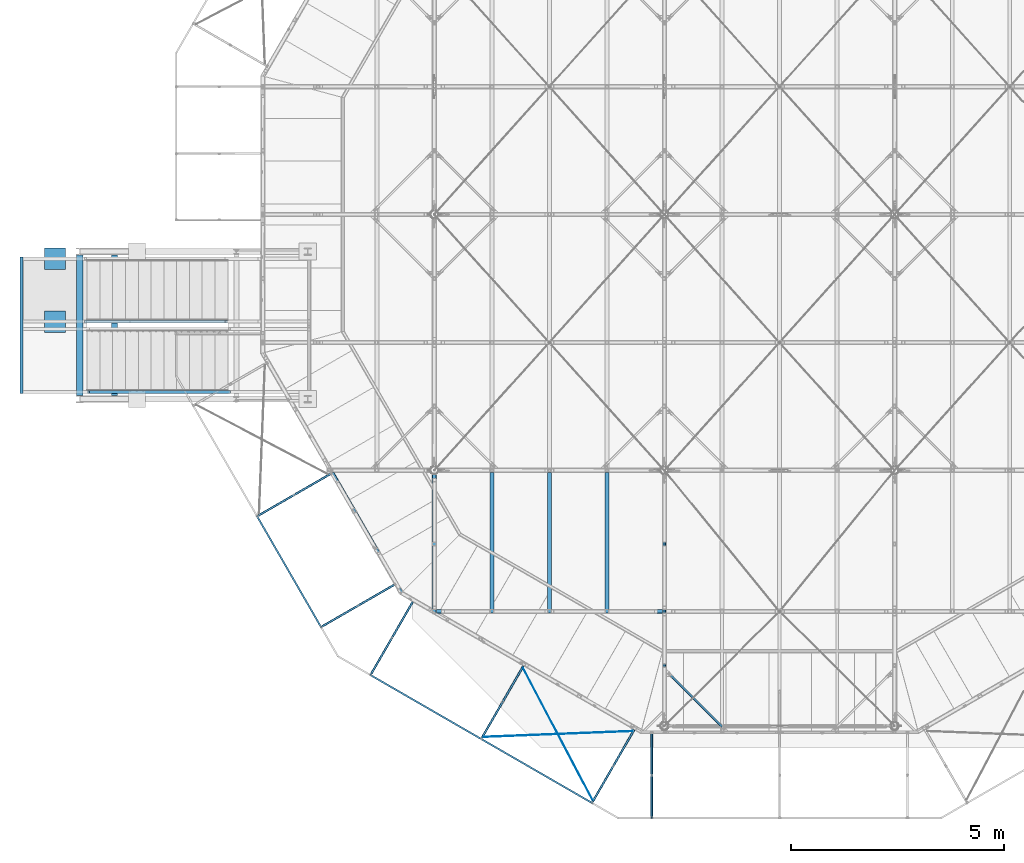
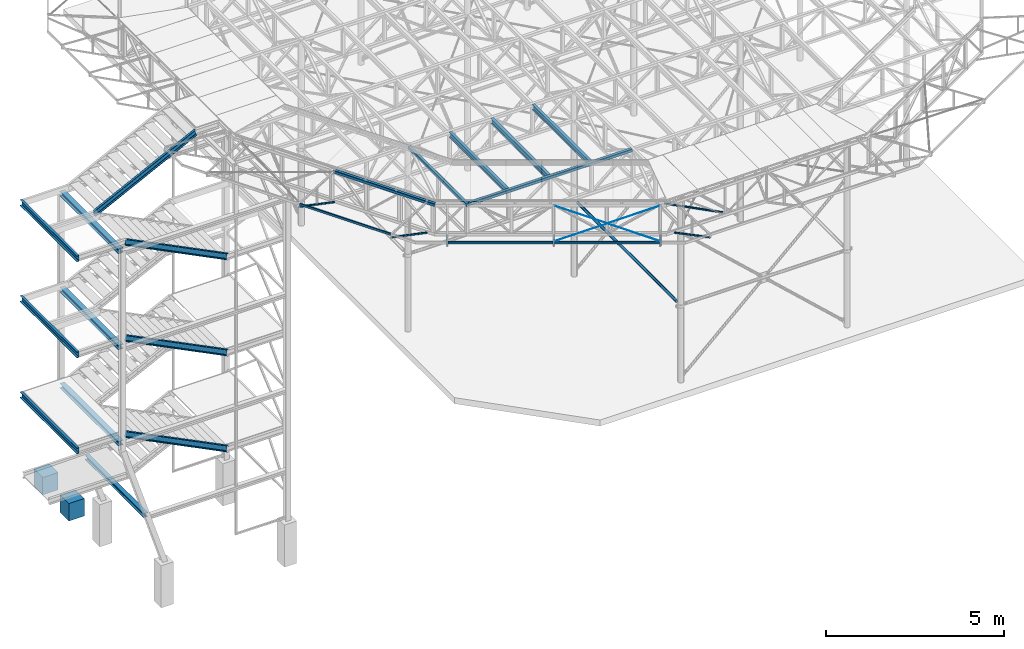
# One storey, part 4 of 132: 20 beams, 10 members, 2 columns, 32 elements without a shape of their own.
"""IFC2X3 building model written with IfcOpenShell, lengths in millimetres."""

import ifcopenshell
import ifcopenshell.guid

model = None  # the IFC model being written
_history = None  # IfcOwnerHistory: only IFC2X3 demands one
_inside = {}  # id of a spatial element -> (the spatial element, [elements in it])
_under = {}  # id of a project, library or spatial element -> (it, [spatial elements below it])
_declared = {}  # id of a project -> (the project, [libraries it declares])
_typed = {}  # id of a type object -> (the type object, [elements of that type])
_made_of = {}  # id of a material, layer set ... -> (it, [elements and type objects made of it])


def new_model(schema):
    """Start an empty IFC model of exactly this schema.

    Asked for "IFC4X3", IfcOpenShell would pick the latest addendum, in which some entities
    have other attributes; the version numbers below select the first issue.
    IFC2X3 requires an IfcOwnerHistory on every rooted entity: one is made here for all.
    """
    global model, _history
    if schema == "IFC4X3":
        model = ifcopenshell.file(schema_version=(4, 3, 0, 0))
    else:
        model = ifcopenshell.file(schema=schema)
    _inside.clear()
    _under.clear()
    _declared.clear()
    _typed.clear()
    _made_of.clear()
    _history = None
    if model.schema == "IFC2X3":
        org = make("IfcOrganization", Name="unknown")
        user = make(
            "IfcPersonAndOrganization",
            ThePerson=make("IfcPerson", FamilyName="unknown"),
            TheOrganization=org,
        )
        app = make(
            "IfcApplication",
            ApplicationDeveloper=org,
            Version="unknown",
            ApplicationFullName="unknown",
            ApplicationIdentifier="unknown",
        )
        _history = make(
            "IfcOwnerHistory",
            OwningUser=user,
            OwningApplication=app,
            ChangeAction="ADDED",
            CreationDate=0,
        )
    return model


def make(cls, **values):
    """One entity of the class cls with the attributes given. An attribute that is None is left unset."""
    return model.create_entity(
        cls, **{name: value for name, value in values.items() if value is not None}
    )


def rooted(cls, **values):
    """An entity with a GlobalId (a new one), such as an element, a storey or a relation."""
    return make(cls, GlobalId=ifcopenshell.guid.new(), OwnerHistory=_history, **values)


def si_unit(unit_type, name, prefix=None):
    """IfcSIUnit, for example si_unit("LENGTHUNIT", "METRE", prefix="MILLI")."""
    return make("IfcSIUnit", UnitType=unit_type, Prefix=prefix, Name=name)


def assignment(units):
    """IfcUnitAssignment: the units of a project."""
    return None if units is None else make("IfcUnitAssignment", Units=units)


def point(xyz):
    """IfcCartesianPoint."""
    return None if xyz is None else make("IfcCartesianPoint", Coordinates=xyz)


def direction(xyz):
    """IfcDirection."""
    return None if xyz is None else make("IfcDirection", DirectionRatios=xyz)


def frame(location, z_axis=None, x_axis=None):
    """IfcAxis2Placement3D, a coordinate frame: its origin and axes. An axis left out is left unset."""
    return make(
        "IfcAxis2Placement3D",
        Location=point(location),
        Axis=direction(z_axis),
        RefDirection=direction(x_axis),
    )


def frame_2d(location, x_axis=None):
    """IfcAxis2Placement2D, a coordinate frame in the plane: its origin and x axis."""
    return make(
        "IfcAxis2Placement2D", Location=point(location), RefDirection=direction(x_axis)
    )


def origin_with_axes():
    """The frame at (0, 0, 0) with the z axis (0, 0, 1) and the x axis (1, 0, 0) written out."""
    return frame((0.0, 0.0, 0.0), z_axis=(0.0, 0.0, 1.0), x_axis=(1.0, 0.0, 0.0))


def origin_2d_with_axis():
    """The frame at (0, 0) in the plane with the x axis (1, 0) written out."""
    return frame_2d((0.0, 0.0), x_axis=(1.0, 0.0))


def place(relative_to, where):
    """IfcLocalPlacement: puts the frame where relative to a parent placement (None: the world)."""
    return make(
        "IfcLocalPlacement", PlacementRelTo=relative_to, RelativePlacement=where
    )


def context(
    kind, dimensions, precision=None, world=None, true_north=None, identifier=None
):
    """IfcGeometricRepresentationContext, for example the 3D "Model" context."""
    return make(
        "IfcGeometricRepresentationContext",
        ContextIdentifier=identifier,
        ContextType=kind,
        CoordinateSpaceDimension=dimensions,
        Precision=precision,
        WorldCoordinateSystem=world,
        TrueNorth=true_north,
    )


def subcontext(parent, identifier, kind, view, scale=None):
    """IfcGeometricRepresentationSubContext, for example "Body" below "Model"."""
    return make(
        "IfcGeometricRepresentationSubContext",
        ContextIdentifier=identifier,
        ContextType=kind,
        ParentContext=parent,
        TargetScale=scale,
        TargetView=view,
    )


def project(units=None, contexts=None):
    """IfcProject with its units and contexts."""
    return rooted(
        "IfcProject",
        Name="project",
        RepresentationContexts=contexts,
        UnitsInContext=assignment(units),
    )


def spatial(cls, under=None, at=None, **own):
    """A site, building, storey or space (cls), placed at a placement, below another one or the project."""
    s = rooted(cls, ObjectPlacement=at, **own)
    if under is not None:
        _under.setdefault(under.id(), (under, []))[1].append(s)
    return s


def profile(cls, at=None, kind="AREA", **sizes):
    """A parametric profile (cls). Its sizes go by their IFC names, for example OverallWidth=200.0."""
    return make(cls, ProfileType=kind, Position=at, **sizes)


def rectangle(**sizes):
    """IfcRectangleProfileDef."""
    return profile("IfcRectangleProfileDef", **sizes)


def hollow_rectangle(**sizes):
    """IfcRectangleHollowProfileDef."""
    return profile("IfcRectangleHollowProfileDef", **sizes)


def circle(**sizes):
    """IfcCircleProfileDef."""
    return profile("IfcCircleProfileDef", **sizes)


def hollow_circle(**sizes):
    """IfcCircleHollowProfileDef."""
    return profile("IfcCircleHollowProfileDef", **sizes)


def i_section(**sizes):
    """IfcIShapeProfileDef."""
    return profile("IfcIShapeProfileDef", **sizes)


def u_section(**sizes):
    """IfcUShapeProfileDef."""
    return profile("IfcUShapeProfileDef", **sizes)


def extrude(swept, where, along, depth):
    """IfcExtrudedAreaSolid: the profile swept, set in the frame where, extruded along a direction by depth."""
    return make(
        "IfcExtrudedAreaSolid",
        SweptArea=swept,
        Position=where,
        ExtrudedDirection=direction(along),
        Depth=depth,
    )


def boolean(op, a, b):
    """IfcBooleanResult of two solids."""
    return make("IfcBooleanResult", Operator=op, FirstOperand=a, SecondOperand=b)


def clip(a, b, op="DIFFERENCE"):
    """IfcBooleanClippingResult: the solid a cut by the half space b."""
    return make(
        "IfcBooleanClippingResult", Operator=op, FirstOperand=a, SecondOperand=b
    )


def halfspace(plane, agree):
    """IfcHalfSpaceSolid: all space on one side of the plane z = 0 of the frame plane."""
    return make(
        "IfcHalfSpaceSolid",
        BaseSurface=make("IfcPlane", Position=plane),
        AgreementFlag=agree,
    )


def shape(context_of_items, identifier, shape_type, items):
    """IfcShapeRepresentation: the items that make up one representation, for example the "Body"."""
    return make(
        "IfcShapeRepresentation",
        ContextOfItems=context_of_items,
        RepresentationIdentifier=identifier,
        RepresentationType=shape_type,
        Items=items,
    )


def material(Name=None, Category=None):
    """IfcMaterial."""
    return make("IfcMaterial", Name=Name, Category=Category)


def made_of(thing, what):
    """Note that an element or type object is made of a material, layer set ...; save() writes the relation."""
    if what is not None:
        _made_of.setdefault(what.id(), (what, []))[1].append(thing)
    return thing


def type_object(cls, material=None, **own):
    """A type object (cls), such as IfcWallType, which elements share."""
    return made_of(rooted(cls, **own), material)


def element(
    cls,
    number,
    at=None,
    inside=None,
    cuts=None,
    type_object=None,
    material=None,
    context=None,
    identifier="Body",
    shape_type=None,
    held_by="IfcProductDefinitionShape",
    body=None,
    shapes=None,
    **own,
):
    """One element of the class cls, such as IfcWall. Its Tag is "e" and its number.

    at: its placement. inside: the storey or other place that contains it. cuts: it is an
    opening in that element (IfcRelVoidsElement). A single representation is given by context,
    identifier, shape_type and body (its items); several are given by shapes. held_by: the class
    of the entity that holds the representations. save() writes the other relations.
    """
    e = rooted(cls, Tag="e%d" % number, ObjectPlacement=at, **own)
    if body is not None:
        shapes = [shape(context, identifier, shape_type, body)]
    if shapes is not None:
        e.Representation = make(held_by, Representations=shapes)
    if inside is not None:
        _inside.setdefault(inside.id(), (inside, []))[1].append(e)
    if cuts is not None:
        rooted(
            "IfcRelVoidsElement", RelatingBuildingElement=cuts, RelatedOpeningElement=e
        )
    if type_object is not None:
        _typed.setdefault(type_object.id(), (type_object, []))[1].append(e)
    return made_of(e, material)


def aggregate(whole, parts):
    """IfcRelAggregates: a whole, such as a stair, and the parts it consists of."""
    return rooted("IfcRelAggregates", RelatingObject=whole, RelatedObjects=parts)


def save(model, path):
    """Write the relations noted so far, then the file.

    IfcRelAggregates (storeys below a building ...), IfcRelContainedInSpatialStructure (elements
    in a storey), IfcRelDefinesByType, IfcRelAssociatesMaterial and IfcRelDeclares: one each for
    every whole, place, type object, material and project.
    """
    for whole, parts in _under.values():
        aggregate(whole, parts)
    for where, things in _inside.values():
        rooted(
            "IfcRelContainedInSpatialStructure",
            RelatedElements=things,
            RelatingStructure=where,
        )
    for kind, things in _typed.values():
        rooted("IfcRelDefinesByType", RelatedObjects=things, RelatingType=kind)
    for what, things in _made_of.values():
        rooted("IfcRelAssociatesMaterial", RelatedObjects=things, RelatingMaterial=what)
    for by, libraries in _declared.values():
        rooted("IfcRelDeclares", RelatingContext=by, RelatedDefinitions=libraries)
    model.write(path)


model = new_model("IFC2X3")

# Units and contexts
model_context = context("Model", 3, precision=1e-05, world=origin_with_axes())
body_context = subcontext(model_context, "Body", "Model", "MODEL_VIEW")
ifc_project = project(units=[si_unit("LENGTHUNIT", "METRE", prefix="MILLI"), si_unit("AREAUNIT", "SQUARE_METRE"), si_unit("VOLUMEUNIT", "CUBIC_METRE"), si_unit("MASSUNIT", "GRAM", prefix="KILO"), si_unit("TIMEUNIT", "SECOND"), si_unit("PLANEANGLEUNIT", "RADIAN"), si_unit("SOLIDANGLEUNIT", "STERADIAN"), si_unit("THERMODYNAMICTEMPERATUREUNIT", "DEGREE_CELSIUS"), si_unit("LUMINOUSINTENSITYUNIT", "LUMEN")], contexts=[model_context])

# Site, building, storey
site_placement = place(None, origin_with_axes())
site = spatial("IfcSite", under=ifc_project, at=site_placement, Name="Budowa", CompositionType="ELEMENT")
building_placement = place(site_placement, origin_with_axes())
building = spatial("IfcBuilding", under=site, at=building_placement, Name="Undefined", CompositionType="ELEMENT")
storey_placement = place(building_placement, origin_with_axes())
storey = spatial("IfcBuildingStorey", under=building, at=storey_placement, Name="Undefined", CompositionType="ELEMENT", Elevation=0.0)

# Assembly, column
assembly_1_placement = place(storey_placement, origin_with_axes())
assembly_1 = element("IfcElementAssembly", 1, at=assembly_1_placement, inside=storey, Name="COLUMN", AssemblyPlace="NOTDEFINED", PredefinedType="REINFORCEMENT_UNIT")
ifc_material_1 = material(Name="CONCRETE/C25/30")
column_type = type_object("IfcColumnType", Name="500*500", PredefinedType="NOTDEFINED")
column_1_placement = place(assembly_1_placement, frame((-4875.74578589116, 9485.000000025, 2180.0), z_axis=(0.0, 0.0, 1.0), x_axis=(-1.0, 0.0, 0.0)))
column_1 = element("IfcColumn", 2, at=column_1_placement, type_object=column_type, material=ifc_material_1, Name="COLUMN", ObjectType="500*500", context=body_context, shape_type="SweptSolid", body=[
    extrude(rectangle(XDim=500.0, YDim=500.0, at=origin_2d_with_axis()), frame((0.0, 0.0, 600.0), z_axis=(0.0, 0.0, -1.0), x_axis=(0.0, 1.0, 0.0)), (0.0, 0.0, 1.0), 600.0),
])
aggregate(assembly_1, [column_1])

assembly_2_placement = place(storey_placement, origin_with_axes())
assembly_2 = element("IfcElementAssembly", 3, at=assembly_2_placement, inside=storey, Name="COLUMN", AssemblyPlace="NOTDEFINED", PredefinedType="REINFORCEMENT_UNIT")
column_2_placement = place(assembly_2_placement, frame((-4875.74578589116, 10960.000000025, 2180.0), z_axis=(0.0, 0.0, 1.0), x_axis=(-1.0, 0.0, 0.0)))
column_2 = element("IfcColumn", 4, at=column_2_placement, type_object=column_type, material=ifc_material_1, Name="COLUMN", ObjectType="500*500", context=body_context, shape_type="SweptSolid", body=[
    extrude(rectangle(XDim=500.0, YDim=500.0, at=origin_2d_with_axis()), frame((0.0, 0.0, 600.0), z_axis=(0.0, 0.0, -1.0), x_axis=(0.0, 1.0, 0.0)), (0.0, 0.0, 1.0), 600.0),
])
aggregate(assembly_2, [column_2])

# Assembly, beam
assembly_3_placement = place(storey_placement, origin_with_axes())
assembly_3 = element("IfcElementAssembly", 5, at=assembly_3_placement, inside=storey, Name="Steel Assembly", AssemblyPlace="NOTDEFINED", PredefinedType="RIGID_FRAME")
ifc_material_2 = material(Name="STEEL/S235JR")
beam_type_1 = type_object("IfcBeamType", Name="CHS88.9*3", PredefinedType="NOTDEFINED")
beam_1_placement = place(assembly_3_placement, frame((9417.00000620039, 88.900000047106, 10116.0003779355), z_axis=(-1.0, 0.0, 0.0), x_axis=(0.0, 1.0, 0.0)))
beam_1 = element("IfcBeam", 6, at=beam_1_placement, type_object=beam_type_1, material=ifc_material_2, Name="BEAM", ObjectType="CHS88.9*3", context=body_context, shape_type="CSG", body=[
    boolean("DIFFERENCE", boolean("DIFFERENCE", boolean("DIFFERENCE", boolean("DIFFERENCE", extrude(hollow_circle(Radius=44.45, WallThickness=3.0, at=origin_2d_with_axis()), frame((5703.19209466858, 0.0, 0.0), z_axis=(-1.0, 0.0, 0.0), x_axis=(0.0, -1.0, 0.0)), (0.0, 0.0, 1.0), 5584.18), extrude(rectangle(XDim=9.0, YDim=92.9, at=origin_2d_with_axis()), frame((5602.19209466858, 0.0, 3.70549059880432e-06), z_axis=(1.0, 0.0, 0.0), x_axis=(0.0, 0.0, -1.0)), (0.0, 0.0, 1.0), 103.0)), extrude(rectangle(XDim=9.0, YDim=92.9, at=origin_2d_with_axis()), frame((220.00790537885, 0.0, 3.42542261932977e-06), z_axis=(-1.0, 0.0, 0.0), x_axis=(0.0, 0.0, -1.0)), (0.0, 0.0, 1.0), 103.0)), halfspace(frame((5703.19209466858, 0.0, -11.9999962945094), z_axis=(-1.0, 0.0, 0.0), x_axis=(0.0, 1.0, 0.0)), True)), halfspace(frame((119.00790537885, 0.0, -11.9999965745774), z_axis=(1.0, 0.0, 0.0), x_axis=(0.0, -1.0, 0.0)), True)),
])
aggregate(assembly_3, [beam_1])

# Assembly, member
assembly_4_placement = place(storey_placement, origin_with_axes())
assembly_4 = element("IfcElementAssembly", 7, at=assembly_4_placement, inside=storey, Name="Steel Assembly", AssemblyPlace="NOTDEFINED", PredefinedType="RIGID_FRAME")
ifc_material_3 = material(Name="STEEL/S235")
member_type_1 = type_object("IfcMemberType", Name="UPN200", PredefinedType="NOTDEFINED")
member_1_placement = place(assembly_4_placement, frame((-4135.27864053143, 9487.50000004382, 12260.5572809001), z_axis=(-0.447213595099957, 0.0, 0.894427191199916), x_axis=(0.894427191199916, 0.0, 0.447213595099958)))
member_1 = element("IfcMember", 8, at=member_1_placement, type_object=member_type_1, material=ifc_material_3, Name="BELKA", ObjectType="UPN200", context=body_context, shape_type="Clipping", body=[
    clip(clip(extrude(u_section(Depth=200.0, FlangeWidth=75.0, WebThickness=8.5, FlangeThickness=11.5, FilletRadius=11.5, EdgeRadius=6.0, at=origin_2d_with_axis()), frame((3798.89392931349, -1.81898940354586e-12, 0.0), z_axis=(-1.0, 0.0, 0.0), x_axis=(0.0, -1.0, 0.0)), (0.0, 0.0, 1.0), 3955.49), halfspace(frame((3689.51216612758, -37.5000000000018, 100.000000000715), z_axis=(-0.97324898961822, 0.0, 0.229752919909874), x_axis=(0.0, -1.0, 0.0)), True)), halfspace(frame((3.68811288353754e-06, -3.63797880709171e-12, 100.0), z_axis=(-0.97324898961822, 0.0, 0.229752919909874), x_axis=(0.0, -1.0, 0.0)), False)),
])
aggregate(assembly_4, [member_1])

assembly_5_placement = place(storey_placement, origin_with_axes())
assembly_5 = element("IfcElementAssembly", 9, at=assembly_5_placement, inside=storey, Name="Steel Assembly", AssemblyPlace="NOTDEFINED", PredefinedType="RIGID_FRAME")
member_2_placement = place(assembly_5_placement, frame((-4104.72135962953, 7837.50000004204, 12260.5572808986), z_axis=(0.447213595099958, 0.0, 0.894427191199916), x_axis=(0.894427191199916, 0.0, -0.447213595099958)))
member_2 = element("IfcMember", 10, at=member_2_placement, type_object=member_type_1, material=ifc_material_3, Name="BELKA", ObjectType="UPN200", context=body_context, shape_type="Clipping", body=[
    clip(clip(extrude(u_section(Depth=200.0, FlangeWidth=75.0, WebThickness=8.5, FlangeThickness=11.5, FilletRadius=11.5, EdgeRadius=6.0, at=origin_2d_with_axis()), frame((3846.10752494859, 0.0, 0.0), z_axis=(-1.0, 0.0, 0.0), x_axis=(0.0, -1.0, 0.0)), (0.0, 0.0, 1.0), 3955.49), halfspace(frame((3689.51216621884, -1.81898940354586e-12, 99.9999999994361), z_axis=(0.973248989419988, 0.0, 0.229752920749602), x_axis=(0.0, 1.0, 0.0)), False)), halfspace(frame((3.68624523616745e-06, -37.5000000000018, 99.9999999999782), z_axis=(-0.97324898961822, 0.0, -0.229752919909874), x_axis=(0.0, -1.0, 0.0)), False)),
])
aggregate(assembly_5, [member_2])

assembly_6_placement = place(storey_placement, origin_with_axes())
assembly_6 = element("IfcElementAssembly", 11, at=assembly_6_placement, inside=storey, Name="Steel Assembly", AssemblyPlace="NOTDEFINED", PredefinedType="RIGID_FRAME")
member_3_placement = place(assembly_6_placement, frame((-4104.72135962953, 7837.50000004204, 8960.5572808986), z_axis=(0.447213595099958, 0.0, 0.894427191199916), x_axis=(0.894427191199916, 0.0, -0.447213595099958)))
member_3 = element("IfcMember", 12, at=member_3_placement, type_object=member_type_1, material=ifc_material_3, Name="BELKA", ObjectType="UPN200", context=body_context, shape_type="Clipping", body=[
    clip(clip(extrude(u_section(Depth=200.0, FlangeWidth=75.0, WebThickness=8.5, FlangeThickness=11.5, FilletRadius=11.5, EdgeRadius=6.0, at=origin_2d_with_axis()), frame((3846.10752494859, 0.0, 0.0), z_axis=(-1.0, 0.0, 0.0), x_axis=(0.0, -1.0, 0.0)), (0.0, 0.0, 1.0), 3955.49), halfspace(frame((3689.51216621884, -1.81898940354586e-12, 99.9999999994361), z_axis=(0.973248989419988, 0.0, 0.229752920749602), x_axis=(0.0, 1.0, 0.0)), False)), halfspace(frame((3.68624523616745e-06, -37.5000000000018, 99.9999999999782), z_axis=(-0.97324898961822, 0.0, -0.229752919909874), x_axis=(0.0, -1.0, 0.0)), False)),
])
aggregate(assembly_6, [member_3])

assembly_7_placement = place(storey_placement, origin_with_axes())
assembly_7 = element("IfcElementAssembly", 13, at=assembly_7_placement, inside=storey, Name="Steel Assembly", AssemblyPlace="NOTDEFINED", PredefinedType="RIGID_FRAME")
member_4_placement = place(assembly_7_placement, frame((-4104.72135963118, 7837.50000004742, 5660.5572809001), z_axis=(0.447213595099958, 0.0, 0.894427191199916), x_axis=(0.894427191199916, 0.0, -0.447213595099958)))
member_4 = element("IfcMember", 14, at=member_4_placement, type_object=member_type_1, material=ifc_material_3, Name="BELKA", ObjectType="UPN200", context=body_context, shape_type="Clipping", body=[
    clip(clip(extrude(u_section(Depth=200.0, FlangeWidth=75.0, WebThickness=8.5, FlangeThickness=11.5, FilletRadius=11.5, EdgeRadius=6.0, at=origin_2d_with_axis()), frame((3846.10752494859, 0.0, 0.0), z_axis=(-1.0, 0.0, 0.0), x_axis=(0.0, -1.0, 0.0)), (0.0, 0.0, 1.0), 3955.49), halfspace(frame((3689.51216621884, -1.81898940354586e-12, 99.9999999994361), z_axis=(0.973248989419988, 0.0, 0.229752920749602), x_axis=(0.0, 1.0, 0.0)), False)), halfspace(frame((3.68624523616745e-06, -37.5000000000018, 99.9999999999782), z_axis=(-0.97324898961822, 0.0, -0.229752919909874), x_axis=(0.0, -1.0, 0.0)), False)),
])
aggregate(assembly_7, [member_4])

# Assembly, beam
assembly_8_placement = place(storey_placement, origin_with_axes())
assembly_8 = element("IfcElementAssembly", 15, at=assembly_8_placement, inside=storey, Name="Steel Assembly", AssemblyPlace="NOTDEFINED", PredefinedType="RIGID_FRAME")
beam_type_2 = type_object("IfcBeamType", Name="UPN200", PredefinedType="NOTDEFINED")
beam_2_placement = place(assembly_8_placement, frame((-5657.50000008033, 11000.0000000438, 12250.0), z_axis=(0.0, 0.0, 1.0), x_axis=(0.0, -1.0, 0.0)))
beam_2 = element("IfcBeam", 16, at=beam_2_placement, type_object=beam_type_2, material=ifc_material_3, Name="BELKA", ObjectType="UPN200", context=body_context, shape_type="SweptSolid", body=[
    extrude(u_section(Depth=200.0, FlangeWidth=75.0, WebThickness=8.5, FlangeThickness=11.5, FilletRadius=11.5, EdgeRadius=6.0, at=origin_2d_with_axis()), frame((3199.99999999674, 0.0, 0.0), z_axis=(-1.0, 0.0, 0.0), x_axis=(0.0, -1.0, 0.0)), (0.0, 0.0, 1.0), 3200.0),
])
aggregate(assembly_8, [beam_2])

assembly_9_placement = place(storey_placement, origin_with_axes())
assembly_9 = element("IfcElementAssembly", 17, at=assembly_9_placement, inside=storey, Name="Steel Assembly", AssemblyPlace="NOTDEFINED", PredefinedType="RIGID_FRAME")
beam_3_placement = place(assembly_9_placement, frame((-5657.50000008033, 11000.0000000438, 8950.0), z_axis=(0.0, 0.0, 1.0), x_axis=(0.0, -1.0, 0.0)))
beam_3 = element("IfcBeam", 18, at=beam_3_placement, type_object=beam_type_2, material=ifc_material_3, Name="BELKA", ObjectType="UPN200", context=body_context, shape_type="SweptSolid", body=[
    extrude(u_section(Depth=200.0, FlangeWidth=75.0, WebThickness=8.5, FlangeThickness=11.5, FilletRadius=11.5, EdgeRadius=6.0, at=origin_2d_with_axis()), frame((3199.99999999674, 0.0, 0.0), z_axis=(-1.0, 0.0, 0.0), x_axis=(0.0, -1.0, 0.0)), (0.0, 0.0, 1.0), 3200.0),
])
aggregate(assembly_9, [beam_3])

assembly_10_placement = place(storey_placement, origin_with_axes())
assembly_10 = element("IfcElementAssembly", 19, at=assembly_10_placement, inside=storey, Name="Steel Assembly", AssemblyPlace="NOTDEFINED", PredefinedType="RIGID_FRAME")
beam_4_placement = place(assembly_10_placement, frame((-5657.50000008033, 11000.0000000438, 5650.0), z_axis=(0.0, 0.0, 1.0), x_axis=(0.0, -1.0, 0.0)))
beam_4 = element("IfcBeam", 20, at=beam_4_placement, type_object=beam_type_2, material=ifc_material_3, Name="BELKA", ObjectType="UPN200", context=body_context, shape_type="SweptSolid", body=[
    extrude(u_section(Depth=200.0, FlangeWidth=75.0, WebThickness=8.5, FlangeThickness=11.5, FilletRadius=11.5, EdgeRadius=6.0, at=origin_2d_with_axis()), frame((3199.99999999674, 0.0, 0.0), z_axis=(-1.0, 0.0, 0.0), x_axis=(0.0, -1.0, 0.0)), (0.0, 0.0, 1.0), 3200.0),
])
aggregate(assembly_10, [beam_4])

assembly_11_placement = place(storey_placement, origin_with_axes())
assembly_11 = element("IfcElementAssembly", 21, at=assembly_11_placement, inside=storey, Name="Steel Assembly", AssemblyPlace="NOTDEFINED", PredefinedType="RIGID_FRAME")
beam_type_3 = type_object("IfcBeamType", Name="HEB160", PredefinedType="NOTDEFINED")
beam_5_placement = place(assembly_11_placement, frame((-4295.0000000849, 11050.000000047, 12070.0), z_axis=(0.0, 0.0, 1.0), x_axis=(0.0, -1.0, 0.0)))
beam_5 = element("IfcBeam", 22, at=beam_5_placement, type_object=beam_type_3, material=ifc_material_3, Name="COLUMN", ObjectType="HEB160", context=body_context, shape_type="SweptSolid", body=[
    extrude(i_section(OverallWidth=160.0, OverallDepth=160.0, WebThickness=8.0, FlangeThickness=13.0, FilletRadius=15.0, at=origin_2d_with_axis()), frame((3300.0, 0.0, 0.0), z_axis=(-1.0, 0.0, 0.0), x_axis=(0.0, -1.0, 0.0)), (0.0, 0.0, 1.0), 3300.0),
])
aggregate(assembly_11, [beam_5])

assembly_12_placement = place(storey_placement, origin_with_axes())
assembly_12 = element("IfcElementAssembly", 23, at=assembly_12_placement, inside=storey, Name="Steel Assembly", AssemblyPlace="NOTDEFINED", PredefinedType="RIGID_FRAME")
beam_6_placement = place(assembly_12_placement, frame((-4295.0000000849, 11050.000000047, 8770.0), z_axis=(0.0, 0.0, 1.0), x_axis=(0.0, -1.0, 0.0)))
beam_6 = element("IfcBeam", 24, at=beam_6_placement, type_object=beam_type_3, material=ifc_material_3, Name="COLUMN", ObjectType="HEB160", context=body_context, shape_type="SweptSolid", body=[
    extrude(i_section(OverallWidth=160.0, OverallDepth=160.0, WebThickness=8.0, FlangeThickness=13.0, FilletRadius=15.0, at=origin_2d_with_axis()), frame((3300.0, 0.0, 0.0), z_axis=(-1.0, 0.0, 0.0), x_axis=(0.0, -1.0, 0.0)), (0.0, 0.0, 1.0), 3300.0),
])
aggregate(assembly_12, [beam_6])

assembly_13_placement = place(storey_placement, origin_with_axes())
assembly_13 = element("IfcElementAssembly", 25, at=assembly_13_placement, inside=storey, Name="Steel Assembly", AssemblyPlace="NOTDEFINED", PredefinedType="RIGID_FRAME")
beam_7_placement = place(assembly_13_placement, frame((-4295.0000000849, 11050.000000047, 5470.0), z_axis=(0.0, 0.0, 1.0), x_axis=(0.0, -1.0, 0.0)))
beam_7 = element("IfcBeam", 26, at=beam_7_placement, type_object=beam_type_3, material=ifc_material_3, Name="COLUMN", ObjectType="HEB160", context=body_context, shape_type="SweptSolid", body=[
    extrude(i_section(OverallWidth=160.0, OverallDepth=160.0, WebThickness=8.0, FlangeThickness=13.0, FilletRadius=15.0, at=origin_2d_with_axis()), frame((3300.0, 0.0, 0.0), z_axis=(-1.0, 0.0, 0.0), x_axis=(0.0, -1.0, 0.0)), (0.0, 0.0, 1.0), 3300.0),
])
aggregate(assembly_13, [beam_7])

assembly_14_placement = place(storey_placement, origin_with_axes())
assembly_14 = element("IfcElementAssembly", 27, at=assembly_14_placement, inside=storey, Name="Steel Assembly", AssemblyPlace="NOTDEFINED", PredefinedType="RIGID_FRAME")
beam_type_4 = type_object("IfcBeamType", Name="HEB140", PredefinedType="NOTDEFINED")
beam_8_placement = place(assembly_14_placement, frame((-3481.82352807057, 11050.000000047, 2710.0), z_axis=(0.0, 0.0, 1.0), x_axis=(0.0, -1.0, 0.0)))
beam_8 = element("IfcBeam", 28, at=beam_8_placement, type_object=beam_type_4, material=ifc_material_3, Name="COLUMN", ObjectType="HEB140", context=body_context, shape_type="SweptSolid", body=[
    extrude(i_section(OverallWidth=140.0, OverallDepth=140.0, WebThickness=7.0, FlangeThickness=12.0, FilletRadius=12.0, at=origin_2d_with_axis()), frame((3300.0, 0.0, 0.0), z_axis=(-1.0, 0.0, 0.0), x_axis=(0.0, -1.0, 0.0)), (0.0, 0.0, 1.0), 3300.0),
])
aggregate(assembly_14, [beam_8])

assembly_15_placement = place(storey_placement, origin_with_axes())
assembly_15 = element("IfcElementAssembly", 29, at=assembly_15_placement, inside=storey, Name="Steel Assembly", AssemblyPlace="NOTDEFINED", PredefinedType="RIGID_FRAME")
beam_type_5 = type_object("IfcBeamType", Name="IPE180", PredefinedType="NOTDEFINED")
beam_9_placement = place(assembly_15_placement, frame((5374.99999993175, 2739.00000004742, 13790.0), z_axis=(0.0, 0.0, 1.0), x_axis=(0.0, 1.0, 0.0)))
beam_9 = element("IfcBeam", 30, at=beam_9_placement, type_object=beam_type_5, material=ifc_material_3, Name="BEAM", ObjectType="IPE180", context=body_context, shape_type="SweptSolid", body=[
    extrude(i_section(OverallWidth=91.0, OverallDepth=180.0, WebThickness=5.300000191, FlangeThickness=8.0, FilletRadius=9.0, at=origin_2d_with_axis()), frame((3210.99999999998, 0.0, 0.0), z_axis=(-1.0, 0.0, 0.0), x_axis=(0.0, -1.0, 0.0)), (0.0, 0.0, 1.0), 3211.0),
])
aggregate(assembly_15, [beam_9])

assembly_16_placement = place(storey_placement, origin_with_axes())
assembly_16 = element("IfcElementAssembly", 31, at=assembly_16_placement, inside=storey, Name="Steel Assembly", AssemblyPlace="NOTDEFINED", PredefinedType="RIGID_FRAME")
beam_10_placement = place(assembly_16_placement, frame((8074.99999993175, 2739.00000004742, 13790.0), z_axis=(0.0, 0.0, 1.0), x_axis=(0.0, 1.0, 0.0)))
beam_10 = element("IfcBeam", 32, at=beam_10_placement, type_object=beam_type_5, material=ifc_material_3, Name="BEAM", ObjectType="IPE180", context=body_context, shape_type="SweptSolid", body=[
    extrude(i_section(OverallWidth=91.0, OverallDepth=180.0, WebThickness=5.300000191, FlangeThickness=8.0, FilletRadius=9.0, at=origin_2d_with_axis()), frame((3210.99999999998, 0.0, 0.0), z_axis=(-1.0, 0.0, 0.0), x_axis=(0.0, -1.0, 0.0)), (0.0, 0.0, 1.0), 3211.0),
])
aggregate(assembly_16, [beam_10])

assembly_17_placement = place(storey_placement, origin_with_axes())
assembly_17 = element("IfcElementAssembly", 33, at=assembly_17_placement, inside=storey, Name="Steel Assembly", AssemblyPlace="NOTDEFINED", PredefinedType="RIGID_FRAME")
beam_11_placement = place(assembly_17_placement, frame((6724.99999993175, 2739.00000004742, 13790.0), z_axis=(0.0, 0.0, 1.0), x_axis=(0.0, 1.0, 0.0)))
beam_11 = element("IfcBeam", 34, at=beam_11_placement, type_object=beam_type_5, material=ifc_material_3, Name="BEAM", ObjectType="IPE180", context=body_context, shape_type="SweptSolid", body=[
    extrude(i_section(OverallWidth=91.0, OverallDepth=180.0, WebThickness=5.300000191, FlangeThickness=8.0, FilletRadius=9.0, at=origin_2d_with_axis()), frame((3210.99999999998, 0.0, 0.0), z_axis=(-1.0, 0.0, 0.0), x_axis=(0.0, -1.0, 0.0)), (0.0, 0.0, 1.0), 3211.0),
])
aggregate(assembly_17, [beam_11])

assembly_18_placement = place(storey_placement, origin_with_axes())
assembly_18 = element("IfcElementAssembly", 35, at=assembly_18_placement, inside=storey, Name="Steel Assembly", AssemblyPlace="NOTDEFINED", PredefinedType="RIGID_FRAME")
beam_type_6 = type_object("IfcBeamType", Name="D10", PredefinedType="NOTDEFINED")
beam_12_placement = place(assembly_18_placement, frame((5181.56602270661, -255.821425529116, 13945.5281319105), z_axis=(0.0249673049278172, 0.0432481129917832, 0.998752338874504), x_axis=(0.998878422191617, 0.0391265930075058, -0.0266647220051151)))
beam_12 = element("IfcBeam", 36, at=beam_12_placement, type_object=beam_type_6, material=ifc_material_3, Name="BEAM", ObjectType="D10", context=body_context, shape_type="SweptSolid", body=[
    extrude(circle(Radius=5.0, at=origin_2d_with_axis()), frame((3489.02120950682, 1.67199953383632e-13, 1.2104974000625e-14), z_axis=(-1.0, 0.0, 0.0), x_axis=(0.0, -1.0, 0.0)), (0.0, 0.0, 1.0), 3489.02),
])
aggregate(assembly_18, [beam_12])

assembly_19_placement = place(storey_placement, origin_with_axes())
assembly_19 = element("IfcElementAssembly", 37, at=assembly_19_placement, inside=storey, Name="Steel Assembly", AssemblyPlace="NOTDEFINED", PredefinedType="RIGID_FRAME")
beam_13_placement = place(assembly_19_placement, frame((7736.39224458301, -1730.73260128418, 13945.5281319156), z_axis=(0.0249673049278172, 0.0432481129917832, 0.998752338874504), x_axis=(-0.465616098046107, 0.884585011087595, -0.0266647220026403)))
beam_13 = element("IfcBeam", 38, at=beam_13_placement, type_object=beam_type_6, material=ifc_material_3, Name="BEAM", ObjectType="D10", context=body_context, shape_type="SweptSolid", body=[
    extrude(circle(Radius=5.0, at=origin_2d_with_axis()), frame((3489.02120950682, 1.67199953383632e-13, 1.2104974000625e-14), z_axis=(-1.0, 0.0, 0.0), x_axis=(0.0, -1.0, 0.0)), (0.0, 0.0, 1.0), 3489.02),
])
aggregate(assembly_19, [beam_13])

assembly_20_placement = place(storey_placement, origin_with_axes())
assembly_20 = element("IfcElementAssembly", 39, at=assembly_20_placement, inside=storey, Name="Steel Assembly", AssemblyPlace="NOTDEFINED", PredefinedType="RIGID_FRAME")
beam_type_7 = type_object("IfcBeamType", Name="C70*40*4", PredefinedType="NOTDEFINED")
beam_14_placement = place(assembly_20_placement, frame((-120.429714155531, 4899.59690484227, 13945.0050192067), z_axis=(4.94588018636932e-06, -8.5667924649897e-06, -0.999999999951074), x_axis=(0.499978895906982, -0.866037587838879, 9.89199999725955e-06)))
beam_14 = element("IfcBeam", 40, at=beam_14_placement, type_object=beam_type_7, material=ifc_material_3, Name="BEAM", ObjectType="C70*40*4", context=body_context, shape_type="SweptSolid", body=[
    extrude(u_section(Depth=70.0, FlangeWidth=40.0, WebThickness=4.0, FlangeThickness=4.0, FilletRadius=6.0, at=origin_2d_with_axis()), frame((2949.99999995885, 1.63757896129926e-13, 0.0), z_axis=(-1.0, 0.0, 0.0), x_axis=(0.0, -1.0, 0.0)), (0.0, 0.0, 1.0), 2950.0),
])
aggregate(assembly_20, [beam_14])

assembly_21_placement = place(storey_placement, origin_with_axes())
assembly_21 = element("IfcElementAssembly", 41, at=assembly_21_placement, inside=storey, Name="Steel Assembly", AssemblyPlace="NOTDEFINED", PredefinedType="RIGID_FRAME")
beam_15_placement = place(assembly_21_placement, frame((2548.73333927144, 1183.97376948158, 13945.0050192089), z_axis=(0.0, 0.0, -1.0), x_axis=(0.866042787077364, -0.499969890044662, 0.0)))
beam_15 = element("IfcBeam", 42, at=beam_15_placement, type_object=beam_type_7, material=ifc_material_3, Name="BEAM", ObjectType="C70*40*4", context=body_context, shape_type="SweptSolid", body=[
    extrude(u_section(Depth=70.0, FlangeWidth=40.0, WebThickness=4.0, FlangeThickness=4.0, FilletRadius=6.0, at=origin_2d_with_axis()), frame((2949.99999995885, 1.63757896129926e-13, 0.0), z_axis=(-1.0, 0.0, 0.0), x_axis=(0.0, -1.0, 0.0)), (0.0, 0.0, 1.0), 2950.0),
])
aggregate(assembly_21, [beam_15])

assembly_22_placement = place(storey_placement, origin_with_axes())
assembly_22 = element("IfcElementAssembly", 43, at=assembly_22_placement, inside=storey, Name="Steel Assembly", AssemblyPlace="NOTDEFINED", PredefinedType="RIGID_FRAME")
beam_16_placement = place(assembly_22_placement, frame((5146.86170056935, -315.935900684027, 13945.0050192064), z_axis=(0.0, 0.0, -1.0), x_axis=(0.866042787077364, -0.499969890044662, 0.0)))
beam_16 = element("IfcBeam", 44, at=beam_16_placement, type_object=beam_type_7, material=ifc_material_3, Name="BEAM", ObjectType="C70*40*4", context=body_context, shape_type="SweptSolid", body=[
    extrude(u_section(Depth=70.0, FlangeWidth=40.0, WebThickness=4.0, FlangeThickness=4.0, FilletRadius=6.0, at=origin_2d_with_axis()), frame((2949.99999995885, 1.63757896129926e-13, 0.0), z_axis=(-1.0, 0.0, 0.0), x_axis=(0.0, -1.0, 0.0)), (0.0, 0.0, 1.0), 2950.0),
])
aggregate(assembly_22, [beam_16])

# Assembly, member
assembly_23_placement = place(storey_placement, origin_with_axes())
assembly_23 = element("IfcElementAssembly", 45, at=assembly_23_placement, inside=storey, Name="Steel Assembly", AssemblyPlace="NOTDEFINED", PredefinedType="RIGID_FRAME")
member_type_2 = type_object("IfcMemberType", Name="SHS50*4", PredefinedType="NOTDEFINED")
member_5_placement = place(assembly_23_placement, frame((1591.98637644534, 5917.04850884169, 12802.1351883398), z_axis=(0.499969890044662, -0.866042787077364, 0.0), x_axis=(-0.766800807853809, -0.442677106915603, 0.464815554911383)))
member_5 = element("IfcMember", 46, at=member_5_placement, type_object=member_type_2, material=ifc_material_3, Name="BEAM", ObjectType="SHS50*4", context=body_context, shape_type="Clipping", body=[
    clip(clip(extrude(hollow_rectangle(XDim=50.0, YDim=50.0, WallThickness=4.0, InnerFilletRadius=4.0, OuterFilletRadius=8.0, at=origin_2d_with_axis()), frame((2325.27637080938, 1.2907876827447e-13, 5.21059351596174e-14), z_axis=(-1.0, 0.0, 0.0), x_axis=(0.0, -1.0, 0.0)), (0.0, 0.0, 1.0), 2325.28), halfspace(frame((26.2486785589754, -24.9999999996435, -25.0000000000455), z_axis=(-0.885407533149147, -0.464815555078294, 0.0), x_axis=(-0.464815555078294, 0.885407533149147, 0.0)), False)), halfspace(frame((2258.9602037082, 25.0000000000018, -1.41881173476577e-10), z_axis=(-0.855808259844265, 0.517293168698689, 0.0), x_axis=(0.0, 0.0, 1.0)), True)),
])
aggregate(assembly_23, [member_5])

assembly_24_placement = place(storey_placement, origin_with_axes())
assembly_24 = element("IfcElementAssembly", 47, at=assembly_24_placement, inside=storey, Name="Steel Assembly", AssemblyPlace="NOTDEFINED", PredefinedType="RIGID_FRAME")
member_6_placement = place(assembly_24_placement, frame((3091.94665303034, 3318.94936356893, 12802.1351883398), z_axis=(0.499969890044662, -0.866042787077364, 0.0), x_axis=(-0.766800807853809, -0.442677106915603, 0.464815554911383)))
member_6 = element("IfcMember", 48, at=member_6_placement, type_object=member_type_2, material=ifc_material_3, Name="BEAM", ObjectType="SHS50*4", context=body_context, shape_type="Clipping", body=[
    clip(clip(extrude(hollow_rectangle(XDim=50.0, YDim=50.0, WallThickness=4.0, InnerFilletRadius=4.0, OuterFilletRadius=8.0, at=origin_2d_with_axis()), frame((2325.27637080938, 1.2907876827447e-13, 5.21059351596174e-14), z_axis=(-1.0, 0.0, 0.0), x_axis=(0.0, -1.0, 0.0)), (0.0, 0.0, 1.0), 2325.28), halfspace(frame((26.2486785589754, -24.9999999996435, -25.0000000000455), z_axis=(-0.885407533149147, -0.464815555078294, 0.0), x_axis=(-0.464815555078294, 0.885407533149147, 0.0)), False)), halfspace(frame((2258.9602037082, 25.0000000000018, -1.41881173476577e-10), z_axis=(-0.855808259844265, 0.517293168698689, 0.0), x_axis=(0.0, 0.0, 1.0)), True)),
])
aggregate(assembly_24, [member_6])

assembly_25_placement = place(storey_placement, origin_with_axes())
assembly_25 = element("IfcElementAssembly", 49, at=assembly_25_placement, inside=storey, Name="Steel Assembly", AssemblyPlace="NOTDEFINED", PredefinedType="RIGID_FRAME")
member_7_placement = place(assembly_25_placement, frame((3522.88268420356, 2921.38842371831, 12802.1351883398), z_axis=(-0.866042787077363, 0.499969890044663, 0.0), x_axis=(-0.442677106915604, -0.766800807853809, 0.464815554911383)))
member_7 = element("IfcMember", 50, at=member_7_placement, type_object=member_type_2, material=ifc_material_3, Name="BEAM", ObjectType="SHS50*4", context=body_context, shape_type="Clipping", body=[
    clip(clip(extrude(hollow_rectangle(XDim=50.0, YDim=50.0, WallThickness=4.0, InnerFilletRadius=4.0, OuterFilletRadius=8.0, at=origin_2d_with_axis()), frame((2325.27637080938, 1.2907876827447e-13, 5.21059351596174e-14), z_axis=(-1.0, 0.0, 0.0), x_axis=(0.0, -1.0, 0.0)), (0.0, 0.0, 1.0), 2325.28), halfspace(frame((26.2486785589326, 24.9999999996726, -25.0000000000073), z_axis=(-0.885407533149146, 0.464815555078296, 0.0), x_axis=(0.0, 0.0, 1.0)), False)), halfspace(frame((2258.9602037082, -25.0000000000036, -1.40062184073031e-10), z_axis=(-0.855808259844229, -0.517293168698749, 0.0), x_axis=(0.0, 0.0, -1.0)), True)),
])
aggregate(assembly_25, [member_7])

assembly_26_placement = place(storey_placement, origin_with_axes())
assembly_26 = element("IfcElementAssembly", 51, at=assembly_26_placement, inside=storey, Name="Steel Assembly", AssemblyPlace="NOTDEFINED", PredefinedType="RIGID_FRAME")
member_8_placement = place(assembly_26_placement, frame((8719.13940669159, -78.4309165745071, 12802.1351883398), z_axis=(-0.866042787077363, 0.499969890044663, 0.0), x_axis=(-0.442677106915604, -0.766800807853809, 0.464815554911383)))
member_8 = element("IfcMember", 52, at=member_8_placement, type_object=member_type_2, material=ifc_material_3, Name="BEAM", ObjectType="SHS50*4", context=body_context, shape_type="Clipping", body=[
    clip(clip(extrude(hollow_rectangle(XDim=50.0, YDim=50.0, WallThickness=4.0, InnerFilletRadius=4.0, OuterFilletRadius=8.0, at=origin_2d_with_axis()), frame((2325.27637080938, 1.2907876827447e-13, 5.21059351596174e-14), z_axis=(-1.0, 0.0, 0.0), x_axis=(0.0, -1.0, 0.0)), (0.0, 0.0, 1.0), 2325.28), halfspace(frame((26.2486785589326, 24.9999999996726, -25.0000000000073), z_axis=(-0.885407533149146, 0.464815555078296, 0.0), x_axis=(0.0, 0.0, 1.0)), False)), halfspace(frame((2258.9602037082, -25.0000000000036, -1.40062184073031e-10), z_axis=(-0.855808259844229, -0.517293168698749, 0.0), x_axis=(0.0, 0.0, -1.0)), True)),
])
aggregate(assembly_26, [member_8])

assembly_27_placement = place(storey_placement, origin_with_axes())
assembly_27 = element("IfcElementAssembly", 53, at=assembly_27_placement, inside=storey, Name="Steel Assembly", AssemblyPlace="NOTDEFINED", PredefinedType="RIGID_FRAME")
member_9_placement = place(assembly_27_placement, frame((6121.01104543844, 1421.47875358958, 12802.1351883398), z_axis=(-0.866042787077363, 0.499969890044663, 0.0), x_axis=(-0.442677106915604, -0.766800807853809, 0.464815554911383)))
member_9 = element("IfcMember", 54, at=member_9_placement, type_object=member_type_2, material=ifc_material_3, Name="BEAM", ObjectType="SHS50*4", context=body_context, shape_type="Clipping", body=[
    clip(clip(extrude(hollow_rectangle(XDim=50.0, YDim=50.0, WallThickness=4.0, InnerFilletRadius=4.0, OuterFilletRadius=8.0, at=origin_2d_with_axis()), frame((2325.27637080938, 1.2907876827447e-13, 5.21059351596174e-14), z_axis=(-1.0, 0.0, 0.0), x_axis=(0.0, -1.0, 0.0)), (0.0, 0.0, 1.0), 2325.28), halfspace(frame((26.2486785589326, 24.9999999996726, -25.0000000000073), z_axis=(-0.885407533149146, 0.464815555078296, 0.0), x_axis=(0.0, 0.0, 1.0)), False)), halfspace(frame((2258.9602037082, -25.0000000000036, -1.40062184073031e-10), z_axis=(-0.855808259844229, -0.517293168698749, 0.0), x_axis=(0.0, 0.0, -1.0)), True)),
])
aggregate(assembly_27, [member_9])

assembly_28_placement = place(storey_placement, origin_with_axes())
assembly_28 = element("IfcElementAssembly", 55, at=assembly_28_placement, inside=storey, Name="Steel Assembly", AssemblyPlace="NOTDEFINED", PredefinedType="RIGID_FRAME")
member_10_placement = place(assembly_28_placement, frame((9124.99999998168, -163.279610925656, 12802.1351883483), z_axis=(1.0, 0.0, 0.0), x_axis=(0.0, -0.885407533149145, 0.464815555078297)))
member_10 = element("IfcMember", 56, at=member_10_placement, type_object=member_type_2, material=ifc_material_3, Name="BEAM", ObjectType="SHS50*4", context=body_context, shape_type="Clipping", body=[
    clip(clip(extrude(hollow_rectangle(XDim=50.0, YDim=50.0, WallThickness=4.0, InnerFilletRadius=4.0, OuterFilletRadius=8.0, at=origin_2d_with_axis()), frame((2286.55526217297, 7.105427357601e-15, -1.81898940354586e-12), z_axis=(-1.0, 0.0, 0.0), x_axis=(0.0, -1.0, 0.0)), (0.0, 0.0, 1.0), 2286.56), halfspace(frame((26.2486785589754, -24.9999999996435, -25.0000000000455), z_axis=(-0.885407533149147, -0.464815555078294, 0.0), x_axis=(-0.464815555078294, 0.885407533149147, 0.0)), False)), halfspace(frame((2258.9602037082, 25.0000000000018, -1.41881173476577e-10), z_axis=(-0.855808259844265, 0.517293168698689, 0.0), x_axis=(0.0, 0.0, 1.0)), True)),
])
aggregate(assembly_28, [member_10])

# Assembly, beam
assembly_29_placement = place(storey_placement, origin_with_axes())
assembly_29 = element("IfcElementAssembly", 57, at=assembly_29_placement, inside=storey, Name="Steel Assembly", AssemblyPlace="NOTDEFINED", PredefinedType="RIGID_FRAME")
beam_type_8 = type_object("IfcBeamType", Name="SHS50*5", PredefinedType="NOTDEFINED")
beam_17_placement = place(assembly_29_placement, frame((9174.99999994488, 1584.90000010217, 12830.0), z_axis=(0.0, 0.0, 1.0), x_axis=(0.707106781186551, -0.707106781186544, 0.0)))
beam_17 = element("IfcBeam", 58, at=beam_17_placement, type_object=beam_type_8, material=ifc_material_3, Name="BEAM", ObjectType="SHS50*5", context=body_context, shape_type="Clipping", body=[
    clip(clip(extrude(hollow_rectangle(XDim=50.0, YDim=50.0, WallThickness=5.0, InnerFilletRadius=5.0, OuterFilletRadius=10.0, at=origin_2d_with_axis()), frame((2264.08122086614, 0.0, 0.0), z_axis=(-1.0, 0.0, 0.0), x_axis=(0.0, -1.0, 0.0)), (0.0, 0.0, 1.0), 1700.02), halfspace(frame((2264.08122086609, 9.09494701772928e-11, -9.0), z_axis=(-1.0, 0.0, 0.0), x_axis=(0.0, 1.0, 0.0)), True)), halfspace(frame((564.063061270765, -1.43882061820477e-09, -8.99999999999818), z_axis=(1.0, 0.0, 0.0), x_axis=(0.0, -1.0, 0.0)), True)),
])
aggregate(assembly_29, [beam_17])

assembly_30_placement = place(storey_placement, origin_with_axes())
assembly_30 = element("IfcElementAssembly", 59, at=assembly_30_placement, inside=storey, Name="Steel Assembly", AssemblyPlace="NOTDEFINED", PredefinedType="RIGID_FRAME")
beam_type_9 = type_object("IfcBeamType", Name="SHS100*8", PredefinedType="NOTDEFINED")
beam_18_placement = place(assembly_30_placement, frame((4074.99999993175, 2690.00000004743, 13830.0), z_axis=(0.0, -1.0, 0.0), x_axis=(1.0, 0.0, 0.0)))
beam_18 = element("IfcBeam", 60, at=beam_18_placement, type_object=beam_type_9, material=ifc_material_3, Name="BEAM", ObjectType="SHS100*8", context=body_context, shape_type="SweptSolid", body=[
    extrude(hollow_rectangle(XDim=100.0, YDim=100.0, WallThickness=8.0, InnerFilletRadius=8.0, OuterFilletRadius=16.0, at=origin_2d_with_axis()), frame((5300.0, 0.0, 0.0), z_axis=(-1.0, 0.0, 0.0), x_axis=(0.0, -1.0, 0.0)), (0.0, 0.0, 1.0), 5300.0),
])
aggregate(assembly_30, [beam_18])

assembly_31_placement = place(storey_placement, origin_with_axes())
assembly_31 = element("IfcElementAssembly", 61, at=assembly_31_placement, inside=storey, Name="Steel Assembly", AssemblyPlace="NOTDEFINED", PredefinedType="RIGID_FRAME")
beam_19_placement = place(assembly_31_placement, frame((4024.99999991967, 5911.10000004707, 13830.0), z_axis=(-1.0, 0.0, 0.0), x_axis=(0.0, -1.0, 0.0)))
beam_19 = element("IfcBeam", 62, at=beam_19_placement, type_object=beam_type_9, material=ifc_material_3, Name="BEAM", ObjectType="SHS100*8", context=body_context, shape_type="CSG", body=[
    boolean("DIFFERENCE", boolean("DIFFERENCE", extrude(hollow_rectangle(XDim=100.0, YDim=100.0, WallThickness=8.0, InnerFilletRadius=8.0, OuterFilletRadius=16.0, at=origin_2d_with_axis()), frame((3271.09999999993, 0.0, 0.0), z_axis=(-1.0, 0.0, 0.0), x_axis=(0.0, -1.0, 0.0)), (0.0, 0.0, 1.0), 3360.0), extrude(circle(Radius=89.9, at=origin_2d_with_axis()), frame((-88.9000000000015, 1950.0, -5.45696821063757e-12), z_axis=(0.0, -1.0, 0.0), x_axis=(1.0, 0.0, 0.0)), (0.0, 0.0, 1.0), 2100.0)), halfspace(frame((-88.9000000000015, -6339.0, -5.45696821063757e-12), z_axis=(-1.0, 0.0, 0.0), x_axis=(0.0, 0.0, -1.0)), False)),
])
aggregate(assembly_31, [beam_19])

assembly_32_placement = place(storey_placement, origin_with_axes())
assembly_32 = element("IfcElementAssembly", 63, at=assembly_32_placement, inside=storey, Name="Steel Assembly", AssemblyPlace="NOTDEFINED", PredefinedType="RIGID_FRAME")
beam_type_10 = type_object("IfcBeamType", Name="SHS100*5", PredefinedType="NOTDEFINED")
beam_20_placement = place(assembly_32_placement, frame((3255.58181669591, 3112.2460413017, 13830.0), z_axis=(0.0, 0.0, 1.0), x_axis=(-0.500000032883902, 0.866025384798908, 0.0)))
beam_20 = element("IfcBeam", 64, at=beam_20_placement, type_object=beam_type_10, material=ifc_material_3, Name="BEAM", ObjectType="SHS100*5", context=body_context, shape_type="Clipping", body=[
    clip(clip(extrude(hollow_rectangle(XDim=100.0, YDim=100.0, WallThickness=5.0, InnerFilletRadius=5.0, OuterFilletRadius=10.0, at=origin_2d_with_axis()), frame((3363.31663048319, 1.86701578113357e-13, 0.0), z_axis=(-1.0, 0.0, 0.0), x_axis=(0.0, -1.0, 0.0)), (0.0, 0.0, 1.0), 3429.57), halfspace(frame((3247.84656727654, -49.9999999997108, -50.0), z_axis=(0.866025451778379, -0.499999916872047, 0.0), x_axis=(0.0, 0.0, 1.0)), False)), halfspace(frame((26.7967793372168, -49.9999999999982, 0.0), z_axis=(0.965921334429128, 0.258835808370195, 0.0), x_axis=(0.0, 0.0, 1.0)), True)),
])
aggregate(assembly_32, [beam_20])

save(model, "model.ifc")
